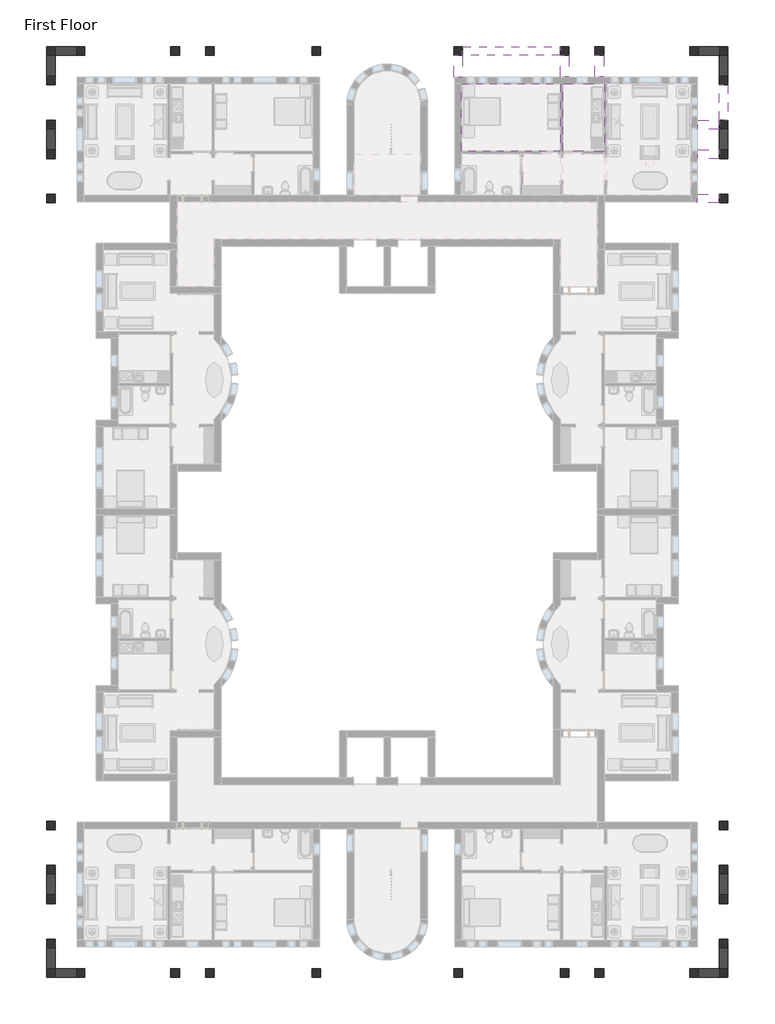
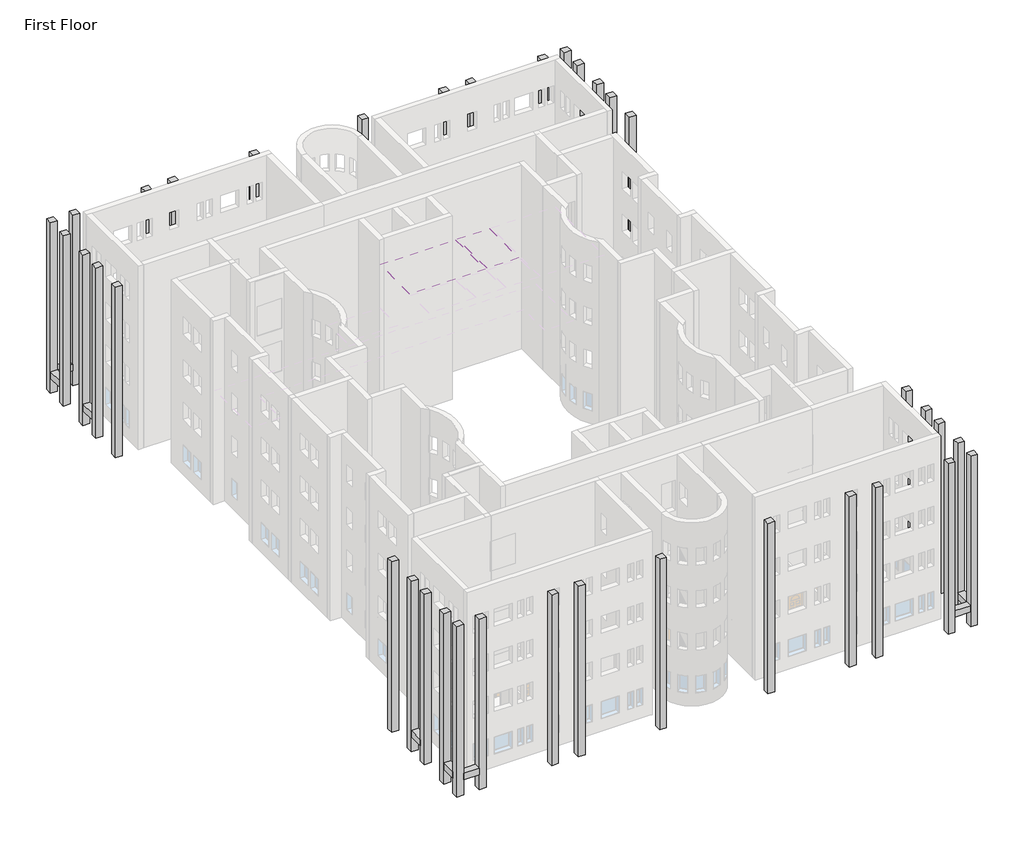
# One storey, part 17 of 21: 36 columns, 20 beams, 2 coverings.
"""IFC4 building model written with IfcOpenShell, lengths in millimetres."""

from ifc_helpers import new_model, si_unit, frame, origin, origin_with_axes, place, context, project, spatial, polyline, outline, extrude, faceted_brep, element, save

model = new_model("IFC4")

# Units and contexts
model_context = context("Model", 3, world=origin())
ifc_project = project(units=[si_unit("LENGTHUNIT", "METRE", prefix="MILLI")], contexts=[model_context])

# Site, building, storey
site = spatial("IfcSite", under=ifc_project)
building = spatial("IfcBuilding", under=site)
storey = spatial("IfcBuildingStorey", under=building, Name="First Floor", Elevation=0.0)

# Beams
placement = place(None, origin())
element("IfcBeam", 1, ObjectType="Concrete-Rectangular Beam : 18 x 18", at=placement, inside=storey, context=model_context, shape_type="SweptSolid", body=[
    extrude(outline(polyline([(2093.9410437, 12198.8316867), (2093.9410437, 11741.6316867), (1027.1410437, 11741.6316867), (1027.1410437, 12198.8316867), (2093.9410437, 12198.8316867)])), frame((0.0, 0.0, 2590.8), z_axis=(0.0, 0.0, 1.0), x_axis=(1.0, 0.0, 0.0)), (0.0, 0.0, 1.0), 457.2),
    extrude(outline(polyline([(569.9410437, 12198.8316867), (569.9410437, 11741.6316867), (-3862.3589563, 11741.6316867), (-3862.3589563, 12198.8316867), (569.9410437, 12198.8316867)])), frame((0.0, 0.0, 2590.8), z_axis=(0.0, 0.0, 1.0), x_axis=(1.0, 0.0, 0.0)), (0.0, 0.0, 1.0), 457.2),
    extrude(outline(polyline([(-5665.7589563, 11741.6316867), (-5665.7589563, 12198.8316867), (-4319.5589563, 12198.8316867), (-4319.5589563, 11741.6316867), (-5665.7589563, 11741.6316867)])), frame((0.0, 0.0, 2590.8), z_axis=(0.0, 0.0, 1.0), x_axis=(1.0, 0.0, 0.0)), (0.0, 0.0, 1.0), 457.2),
    extrude(outline(polyline([(-6122.9589563, 12198.8316867), (-6122.9589563, 11741.6316867), (-11164.8589563, 11741.6316867), (-11164.8589563, 12198.8316867), (-6122.9589563, 12198.8316867)])), frame((0.0, 0.0, 2590.8), z_axis=(0.0, 0.0, 1.0), x_axis=(1.0, 0.0, 0.0)), (0.0, 0.0, 1.0), 457.2),
])
element("IfcBeam", 2, ObjectType="Concrete-Rectangular Beam : 18 x 18", at=placement, inside=storey, context=model_context, shape_type="SweptSolid", body=[
    extrude(outline(polyline([(2093.9410437, 11741.6316867), (2551.1410437, 11741.6316867), (2551.1410437, 10674.8316867), (2093.9410437, 10674.8316867), (2093.9410437, 11741.6316867)])), frame((0.0, 0.0, 2590.8), z_axis=(0.0, 0.0, 1.0), x_axis=(1.0, 0.0, 0.0)), (0.0, 0.0, 1.0), 457.2),
    extrude(outline(polyline([(2551.1410437, 4578.8316867), (2093.9410437, 4578.8316867), (2093.9410437, 6407.6316867), (2551.1410437, 6407.6316867), (2551.1410437, 4578.8316867)])), frame((0.0, 0.0, 2590.8), z_axis=(0.0, 0.0, 1.0), x_axis=(1.0, 0.0, 0.0)), (0.0, 0.0, 1.0), 457.2),
    extrude(outline(polyline([(2551.1410437, 6864.8316867), (2093.9410437, 6864.8316867), (2093.9410437, 7931.6316867), (2551.1410437, 7931.6316867), (2551.1410437, 6864.8316867)])), frame((0.0, 0.0, 2590.8), z_axis=(0.0, 0.0, 1.0), x_axis=(1.0, 0.0, 0.0)), (0.0, 0.0, 1.0), 457.2),
    extrude(outline(polyline([(2093.9410437, 10217.6316867), (2551.1410437, 10217.6316867), (2551.1410437, 8388.8316867), (2093.9410437, 8388.8316867), (2093.9410437, 10217.6316867)])), frame((0.0, 0.0, 2590.8), z_axis=(0.0, 0.0, 1.0), x_axis=(1.0, 0.0, 0.0)), (0.0, 0.0, 1.0), 457.2),
])
element("IfcBeam", 3, ObjectType="Concrete-Rectangular Beam : 18 x 18", at=placement, inside=storey, context=model_context, shape_type="SweptSolid", body=[
    extrude(outline(polyline([(-11164.8589563, 10624.0316867), (-11622.0589563, 10624.0316867), (-11622.0589563, 11741.6316867), (-11164.8589563, 11741.6316867), (-11164.8589563, 10624.0316867)])), frame((0.0, 0.0, 2590.8), z_axis=(0.0, 0.0, 1.0), x_axis=(1.0, 0.0, 0.0)), (0.0, 0.0, 1.0), 457.2),
])
element("IfcBeam", 4, ObjectType="Concrete-Rectangular Beam : 18 x 18", at=placement, inside=storey, context=model_context, shape_type="SweptSolid", body=[
    extrude(outline(polyline([(-5665.7589563, 10643.0816867), (-6122.9589563, 10643.0816867), (-6122.9589563, 11741.6316867), (-5665.7589563, 11741.6316867), (-5665.7589563, 10643.0816867)])), frame((0.0, 0.0, 2590.8), z_axis=(0.0, 0.0, 1.0), x_axis=(1.0, 0.0, 0.0)), (0.0, 0.0, 1.0), 457.2),
])
element("IfcBeam", 5, ObjectType="Concrete-Rectangular Beam : 18 x 18", at=placement, inside=storey, context=model_context, shape_type="SweptSolid", body=[
    extrude(outline(polyline([(1001.7410437, 6407.6316867), (1001.7410437, 6864.8316867), (2093.9410437, 6864.8316867), (2093.9410437, 6407.6316867), (1001.7410437, 6407.6316867)])), frame((0.0, 0.0, 2590.8), z_axis=(0.0, 0.0, 1.0), x_axis=(1.0, 0.0, 0.0)), (0.0, 0.0, 1.0), 457.2),
])
element("IfcBeam", 6, ObjectType="Concrete-Rectangular Beam : 18 x 18", at=placement, inside=storey, context=model_context, shape_type="SweptSolid", body=[
    extrude(outline(polyline([(2093.9410437, 12198.8316867), (2093.9410437, 11741.6316867), (1027.1410437, 11741.6316867), (1027.1410437, 12198.8316867), (2093.9410437, 12198.8316867)])), frame((0.0, 0.0, 1066.8), z_axis=(0.0, 0.0, 1.0), x_axis=(1.0, 0.0, 0.0)), (0.0, 0.0, 1.0), 457.2),
])
element("IfcBeam", 7, ObjectType="Concrete-Rectangular Beam : 18 x 18", at=placement, inside=storey, context=model_context, shape_type="SweptSolid", body=[
    extrude(outline(polyline([(2551.1410437, 10674.8316867), (2093.9410437, 10674.8316867), (2093.9410437, 11741.6316867), (2551.1410437, 11741.6316867), (2551.1410437, 10674.8316867)])), frame((0.0, 0.0, 1066.8), z_axis=(0.0, 0.0, 1.0), x_axis=(1.0, 0.0, 0.0)), (0.0, 0.0, 1.0), 457.2),
])
element("IfcBeam", 8, ObjectType="Concrete-Rectangular Beam : 18 x 18", at=placement, inside=storey, context=model_context, shape_type="SweptSolid", body=[
    extrude(outline(polyline([(-3862.3589563, 10643.0816867), (-4319.5589563, 10643.0816867), (-4319.5589563, 11741.6316867), (-3862.3589563, 11741.6316867), (-3862.3589563, 10643.0816867)])), frame((0.0, 0.0, 2590.8), z_axis=(0.0, 0.0, 1.0), x_axis=(1.0, 0.0, 0.0)), (0.0, 0.0, 1.0), 457.2),
])
element("IfcBeam", 9, ObjectType="Concrete-Rectangular Beam : 18 x 18", at=placement, inside=storey, context=model_context, shape_type="SweptSolid", body=[
    extrude(outline(polyline([(1001.7410437, 7931.6316867), (1001.7410437, 8388.8316867), (2093.9410437, 8388.8316867), (2093.9410437, 7931.6316867), (1001.7410437, 7931.6316867)])), frame((0.0, 0.0, 2590.8), z_axis=(0.0, 0.0, 1.0), x_axis=(1.0, 0.0, 0.0)), (0.0, 0.0, 1.0), 457.2),
])
element("IfcBeam", 10, ObjectType="Concrete-Rectangular Beam : 18 x 18", at=placement, inside=storey, context=model_context, shape_type="SweptSolid", body=[
    extrude(outline(polyline([(976.3410437, 4121.6316867), (976.3410437, 4578.8316867), (2093.9410437, 4578.8316867), (2093.9410437, 4121.6316867), (976.3410437, 4121.6316867)])), frame((0.0, 0.0, 2590.8), z_axis=(0.0, 0.0, 1.0), x_axis=(1.0, 0.0, 0.0)), (0.0, 0.0, 1.0), 457.2),
])
element("IfcBeam", 11, ObjectType="Concrete-Rectangular Beam : 18 x 18", at=placement, inside=storey, context=model_context, shape_type="SweptSolid", body=[
    extrude(outline(polyline([(2551.1410437, 6864.8316867), (2093.9410437, 6864.8316867), (2093.9410437, 7931.6316867), (2551.1410437, 7931.6316867), (2551.1410437, 6864.8316867)])), frame((0.0, 0.0, 1066.8), z_axis=(0.0, 0.0, 1.0), x_axis=(1.0, 0.0, 0.0)), (0.0, 0.0, 1.0), 457.2),
])
element("IfcBeam", 12, ObjectType="Concrete-Rectangular Beam : 18 x 18", at=placement, inside=storey, context=model_context, shape_type="SweptSolid", body=[
    extrude(outline(polyline([(-32218.2839563, 12198.8316867), (-31151.4839563, 12198.8316867), (-31151.4839563, 11741.6316867), (-32218.2839563, 11741.6316867), (-32218.2839563, 12198.8316867)])), frame((0.0, 0.0, 1066.8), z_axis=(0.0, 0.0, 1.0), x_axis=(1.0, 0.0, 0.0)), (0.0, 0.0, 1.0), 457.2),
])
element("IfcBeam", 13, ObjectType="Concrete-Rectangular Beam : 18 x 18", at=placement, inside=storey, context=model_context, shape_type="SweptSolid", body=[
    extrude(outline(polyline([(-32675.4839563, 10674.8316867), (-32675.4839563, 11741.6316867), (-32218.2839563, 11741.6316867), (-32218.2839563, 10674.8316867), (-32675.4839563, 10674.8316867)])), frame((0.0, 0.0, 1066.8), z_axis=(0.0, 0.0, 1.0), x_axis=(1.0, 0.0, 0.0)), (0.0, 0.0, 1.0), 457.2),
])
element("IfcBeam", 14, ObjectType="Concrete-Rectangular Beam : 18 x 18", at=placement, inside=storey, context=model_context, shape_type="SweptSolid", body=[
    extrude(outline(polyline([(-32675.4839563, 6864.8316867), (-32675.4839563, 7931.6316867), (-32218.2839563, 7931.6316867), (-32218.2839563, 6864.8316867), (-32675.4839563, 6864.8316867)])), frame((0.0, 0.0, 1066.8), z_axis=(0.0, 0.0, 1.0), x_axis=(1.0, 0.0, 0.0)), (0.0, 0.0, 1.0), 457.2),
])
element("IfcBeam", 15, ObjectType="Concrete-Rectangular Beam : 18 x 18", at=placement, inside=storey, context=model_context, shape_type="SweptSolid", body=[
    extrude(outline(polyline([(2093.9410437, -35889.7183133), (1027.1410437, -35889.7183133), (1027.1410437, -35432.5183133), (2093.9410437, -35432.5183133), (2093.9410437, -35889.7183133)])), frame((0.0, 0.0, 1066.8), z_axis=(0.0, 0.0, 1.0), x_axis=(1.0, 0.0, 0.0)), (0.0, 0.0, 1.0), 457.2),
])
element("IfcBeam", 16, ObjectType="Concrete-Rectangular Beam : 18 x 18", at=placement, inside=storey, context=model_context, shape_type="SweptSolid", body=[
    extrude(outline(polyline([(2551.1410437, -34365.7183133), (2551.1410437, -35432.5183133), (2093.9410437, -35432.5183133), (2093.9410437, -34365.7183133), (2551.1410437, -34365.7183133)])), frame((0.0, 0.0, 1066.8), z_axis=(0.0, 0.0, 1.0), x_axis=(1.0, 0.0, 0.0)), (0.0, 0.0, 1.0), 457.2),
])
element("IfcBeam", 17, ObjectType="Concrete-Rectangular Beam : 18 x 18", at=placement, inside=storey, context=model_context, shape_type="SweptSolid", body=[
    extrude(outline(polyline([(2551.1410437, -30555.7183133), (2551.1410437, -31622.5183133), (2093.9410437, -31622.5183133), (2093.9410437, -30555.7183133), (2551.1410437, -30555.7183133)])), frame((0.0, 0.0, 1066.8), z_axis=(0.0, 0.0, 1.0), x_axis=(1.0, 0.0, 0.0)), (0.0, 0.0, 1.0), 457.2),
])
element("IfcBeam", 18, ObjectType="Concrete-Rectangular Beam : 18 x 18", at=placement, inside=storey, context=model_context, shape_type="SweptSolid", body=[
    extrude(outline(polyline([(-32218.2839563, -35889.7183133), (-32218.2839563, -35432.5183133), (-31151.4839563, -35432.5183133), (-31151.4839563, -35889.7183133), (-32218.2839563, -35889.7183133)])), frame((0.0, 0.0, 1066.8), z_axis=(0.0, 0.0, 1.0), x_axis=(1.0, 0.0, 0.0)), (0.0, 0.0, 1.0), 457.2),
])
element("IfcBeam", 19, ObjectType="Concrete-Rectangular Beam : 18 x 18", at=placement, inside=storey, context=model_context, shape_type="SweptSolid", body=[
    extrude(outline(polyline([(-32675.4839563, -34365.7183133), (-32218.2839563, -34365.7183133), (-32218.2839563, -35432.5183133), (-32675.4839563, -35432.5183133), (-32675.4839563, -34365.7183133)])), frame((0.0, 0.0, 1066.8), z_axis=(0.0, 0.0, 1.0), x_axis=(1.0, 0.0, 0.0)), (0.0, 0.0, 1.0), 457.2),
])
element("IfcBeam", 20, ObjectType="Concrete-Rectangular Beam : 18 x 18", at=placement, inside=storey, context=model_context, shape_type="SweptSolid", body=[
    extrude(outline(polyline([(-32675.4839563, -30555.7183133), (-32218.2839563, -30555.7183133), (-32218.2839563, -31622.5183133), (-32675.4839563, -31622.5183133), (-32675.4839563, -30555.7183133)])), frame((0.0, 0.0, 1066.8), z_axis=(0.0, 0.0, 1.0), x_axis=(1.0, 0.0, 0.0)), (0.0, 0.0, 1.0), 457.2),
])

# Columns
element("IfcColumn", 21, ObjectType="Concrete-Square-Column : 18 x 18", at=placement, inside=storey, context=model_context, shape_type="Brep", body=[
    faceted_brep([(1027.1410437, 12198.8316867, 0.0), (1027.1410437, 11741.6316867, 0.0), (569.9410437, 11741.6316867, 0.0), (569.9410437, 12198.8316867, 0.0), (1027.1410437, 12198.8316867, 12192.0), (1027.1410437, 11741.6316867, 12192.0), (1027.1410437, 11741.6316867, 11734.8), (1027.1410437, 11741.6316867, 9144.0), (1027.1410437, 11741.6316867, 8686.8), (1027.1410437, 11741.6316867, 6096.0), (1027.1410437, 11741.6316867, 5638.8), (1027.1410437, 11741.6316867, 3048.0), (1027.1410437, 11741.6316867, 2590.8), (1027.1410437, 12198.8316867, 2590.8), (1027.1410437, 12198.8316867, 3048.0), (1027.1410437, 12198.8316867, 5638.8), (1027.1410437, 12198.8316867, 6096.0), (1027.1410437, 12198.8316867, 8686.8), (1027.1410437, 12198.8316867, 9144.0), (1027.1410437, 12198.8316867, 11734.8), (569.9410437, 11741.6316867, 12192.0), (569.9410437, 11741.6316867, 11734.8), (569.9410437, 11741.6316867, 9144.0), (569.9410437, 11741.6316867, 8686.8), (569.9410437, 11741.6316867, 6096.0), (569.9410437, 11741.6316867, 5638.8), (569.9410437, 11741.6316867, 3048.0), (569.9410437, 11741.6316867, 2590.8), (569.9410437, 12198.8316867, 12192.0), (569.9410437, 12198.8316867, 11734.8), (569.9410437, 12198.8316867, 9144.0), (569.9410437, 12198.8316867, 8686.8), (569.9410437, 12198.8316867, 6096.0), (569.9410437, 12198.8316867, 5638.8), (569.9410437, 12198.8316867, 3048.0), (569.9410437, 12198.8316867, 2590.8)], [[[0, 1, 2, 3]], [[4, 5, 6, 7, 8, 9, 10, 11, 12, 1, 0, 13, 14, 15, 16, 17, 18, 19]], [[5, 20, 21, 22, 23, 24, 25, 26, 27, 2, 1, 12, 11, 10, 9, 8, 7, 6]], [[20, 28, 29, 30, 31, 32, 33, 34, 35, 3, 2, 27, 26, 25, 24, 23, 22, 21]], [[28, 4, 19, 18, 17, 16, 15, 14, 13, 0, 3, 35, 34, 33, 32, 31, 30, 29]], [[4, 28, 20, 5]]]),
])
element("IfcColumn", 22, ObjectType="Concrete-Square-Column : 18 x 18", at=placement, inside=storey, context=model_context, shape_type="SweptSolid", body=[
    extrude(outline(polyline([(2551.1410437, 12198.8316867), (2551.1410437, 11741.6316867), (2093.9410437, 11741.6316867), (2093.9410437, 12198.8316867), (2551.1410437, 12198.8316867)])), origin_with_axes(), (0.0, 0.0, 1.0), 12192.0),
])
element("IfcColumn", 23, ObjectType="Concrete-Square-Column : 18 x 18", at=placement, inside=storey, context=model_context, shape_type="Brep", body=[
    faceted_brep([(-5665.7589563, 12198.8316867, 0.0), (-5665.7589563, 11741.6316867, 0.0), (-6122.9589563, 11741.6316867, 0.0), (-6122.9589563, 12198.8316867, 0.0), (-5665.7589563, 12198.8316867, 12192.0), (-5665.7589563, 11741.6316867, 12192.0), (-5665.7589563, 11741.6316867, 11734.8), (-5665.7589563, 11741.6316867, 9144.0), (-5665.7589563, 11741.6316867, 8686.8), (-5665.7589563, 11741.6316867, 6096.0), (-5665.7589563, 11741.6316867, 5638.8), (-5665.7589563, 11741.6316867, 3048.0), (-5665.7589563, 11741.6316867, 2590.8), (-5665.7589563, 12198.8316867, 2590.8), (-5665.7589563, 12198.8316867, 3048.0), (-5665.7589563, 12198.8316867, 5638.8), (-5665.7589563, 12198.8316867, 6096.0), (-5665.7589563, 12198.8316867, 8686.8), (-5665.7589563, 12198.8316867, 9144.0), (-5665.7589563, 12198.8316867, 11734.8), (-6122.9589563, 11741.6316867, 12192.0), (-6122.9589563, 11741.6316867, 11734.8), (-6122.9589563, 11741.6316867, 9144.0), (-6122.9589563, 11741.6316867, 8686.8), (-6122.9589563, 11741.6316867, 6096.0), (-6122.9589563, 11741.6316867, 5638.8), (-6122.9589563, 11741.6316867, 3048.0), (-6122.9589563, 11741.6316867, 2590.8), (-6122.9589563, 12198.8316867, 12192.0), (-6122.9589563, 12198.8316867, 11734.8), (-6122.9589563, 12198.8316867, 9144.0), (-6122.9589563, 12198.8316867, 8686.8), (-6122.9589563, 12198.8316867, 6096.0), (-6122.9589563, 12198.8316867, 5638.8), (-6122.9589563, 12198.8316867, 3048.0), (-6122.9589563, 12198.8316867, 2590.8)], [[[0, 1, 2, 3]], [[4, 5, 6, 7, 8, 9, 10, 11, 12, 1, 0, 13, 14, 15, 16, 17, 18, 19]], [[5, 20, 21, 22, 23, 24, 25, 26, 27, 2, 1, 12, 11, 10, 9, 8, 7, 6]], [[20, 28, 29, 30, 31, 32, 33, 34, 35, 3, 2, 27, 26, 25, 24, 23, 22, 21]], [[28, 4, 19, 18, 17, 16, 15, 14, 13, 0, 3, 35, 34, 33, 32, 31, 30, 29]], [[4, 28, 20, 5]]]),
])
element("IfcColumn", 24, ObjectType="Concrete-Square-Column : 18 x 18", at=placement, inside=storey, context=model_context, shape_type="Brep", body=[
    faceted_brep([(2551.1410437, 6864.8316867, 0.0), (2551.1410437, 6407.6316867, 0.0), (2093.9410437, 6407.6316867, 0.0), (2093.9410437, 6864.8316867, 0.0), (2551.1410437, 6864.8316867, 12192.0), (2551.1410437, 6407.6316867, 12192.0), (2551.1410437, 6407.6316867, 11734.8), (2551.1410437, 6407.6316867, 9144.0), (2551.1410437, 6407.6316867, 8686.8), (2551.1410437, 6407.6316867, 6096.0), (2551.1410437, 6407.6316867, 5638.8), (2551.1410437, 6407.6316867, 3048.0), (2551.1410437, 6407.6316867, 2590.8), (2551.1410437, 6864.8316867, 2590.8), (2551.1410437, 6864.8316867, 3048.0), (2551.1410437, 6864.8316867, 5638.8), (2551.1410437, 6864.8316867, 6096.0), (2551.1410437, 6864.8316867, 8686.8), (2551.1410437, 6864.8316867, 9144.0), (2551.1410437, 6864.8316867, 11734.8), (2093.9410437, 6407.6316867, 12192.0), (2093.9410437, 6407.6316867, 11734.8), (2093.9410437, 6407.6316867, 9144.0), (2093.9410437, 6407.6316867, 8686.8), (2093.9410437, 6407.6316867, 6096.0), (2093.9410437, 6407.6316867, 5638.8), (2093.9410437, 6407.6316867, 3048.0), (2093.9410437, 6407.6316867, 2590.8), (2093.9410437, 6864.8316867, 12192.0), (2093.9410437, 6864.8316867, 11734.8), (2093.9410437, 6864.8316867, 9144.0), (2093.9410437, 6864.8316867, 8686.8), (2093.9410437, 6864.8316867, 6096.0), (2093.9410437, 6864.8316867, 5638.8), (2093.9410437, 6864.8316867, 3048.0), (2093.9410437, 6864.8316867, 2590.8)], [[[0, 1, 2, 3]], [[4, 5, 6, 7, 8, 9, 10, 11, 12, 1, 0, 13, 14, 15, 16, 17, 18, 19]], [[5, 20, 21, 22, 23, 24, 25, 26, 27, 2, 1, 12, 11, 10, 9, 8, 7, 6]], [[20, 28, 29, 30, 31, 32, 33, 34, 35, 3, 2, 27, 26, 25, 24, 23, 22, 21]], [[28, 4, 19, 18, 17, 16, 15, 14, 13, 0, 3, 35, 34, 33, 32, 31, 30, 29]], [[4, 28, 20, 5]]]),
])
element("IfcColumn", 25, ObjectType="Concrete-Square-Column : 18 x 18", at=placement, inside=storey, context=model_context, shape_type="SweptSolid", body=[
    extrude(outline(polyline([(2551.1410437, 4578.8316867), (2551.1410437, 4121.6316867), (2093.9410437, 4121.6316867), (2093.9410437, 4578.8316867), (2551.1410437, 4578.8316867)])), origin_with_axes(), (0.0, 0.0, 1.0), 12192.0),
])
element("IfcColumn", 26, ObjectType="Concrete-Square-Column : 18 x 18", at=placement, inside=storey, context=model_context, shape_type="Brep", body=[
    faceted_brep([(-11164.8589563, 12198.8316867, 0.0), (-11164.8589563, 11741.6316867, 0.0), (-11622.0589563, 11741.6316867, 0.0), (-11622.0589563, 12198.8316867, 0.0), (-11164.8589563, 12198.8316867, 12192.0), (-11164.8589563, 11741.6316867, 12192.0), (-11164.8589563, 11741.6316867, 11734.8), (-11164.8589563, 11741.6316867, 9144.0), (-11164.8589563, 11741.6316867, 8686.8), (-11164.8589563, 11741.6316867, 6096.0), (-11164.8589563, 11741.6316867, 5638.8), (-11164.8589563, 11741.6316867, 3048.0), (-11164.8589563, 11741.6316867, 2590.8), (-11164.8589563, 12198.8316867, 2590.8), (-11164.8589563, 12198.8316867, 3048.0), (-11164.8589563, 12198.8316867, 5638.8), (-11164.8589563, 12198.8316867, 6096.0), (-11164.8589563, 12198.8316867, 8686.8), (-11164.8589563, 12198.8316867, 9144.0), (-11164.8589563, 12198.8316867, 11734.8), (-11622.0589563, 11741.6316867, 12192.0), (-11622.0589563, 12198.8316867, 12192.0)], [[[0, 1, 2, 3]], [[4, 5, 6, 7, 8, 9, 10, 11, 12, 1, 0, 13, 14, 15, 16, 17, 18, 19]], [[5, 20, 2, 1, 12, 11, 10, 9, 8, 7, 6]], [[20, 21, 3, 2]], [[21, 4, 19, 18, 17, 16, 15, 14, 13, 0, 3]], [[4, 21, 20, 5]]]),
])
element("IfcColumn", 27, ObjectType="Concrete-Square-Column : 18 x 18", at=placement, inside=storey, context=model_context, shape_type="Brep", body=[
    faceted_brep([(2551.1410437, 10674.8316867, 0.0), (2551.1410437, 10217.6316867, 0.0), (2093.9410437, 10217.6316867, 0.0), (2093.9410437, 10674.8316867, 0.0), (2551.1410437, 10674.8316867, 12192.0), (2551.1410437, 10217.6316867, 12192.0), (2551.1410437, 10217.6316867, 11734.8), (2551.1410437, 10217.6316867, 9144.0), (2551.1410437, 10217.6316867, 8686.8), (2551.1410437, 10217.6316867, 6096.0), (2551.1410437, 10217.6316867, 5638.8), (2551.1410437, 10217.6316867, 3048.0), (2551.1410437, 10217.6316867, 2590.8), (2551.1410437, 10674.8316867, 2590.8), (2551.1410437, 10674.8316867, 3048.0), (2551.1410437, 10674.8316867, 5638.8), (2551.1410437, 10674.8316867, 6096.0), (2551.1410437, 10674.8316867, 8686.8), (2551.1410437, 10674.8316867, 9144.0), (2551.1410437, 10674.8316867, 11734.8), (2093.9410437, 10217.6316867, 12192.0), (2093.9410437, 10217.6316867, 11734.8), (2093.9410437, 10217.6316867, 9144.0), (2093.9410437, 10217.6316867, 8686.8), (2093.9410437, 10217.6316867, 6096.0), (2093.9410437, 10217.6316867, 5638.8), (2093.9410437, 10217.6316867, 3048.0), (2093.9410437, 10217.6316867, 2590.8), (2093.9410437, 10674.8316867, 12192.0), (2093.9410437, 10674.8316867, 11734.8), (2093.9410437, 10674.8316867, 9144.0), (2093.9410437, 10674.8316867, 8686.8), (2093.9410437, 10674.8316867, 6096.0), (2093.9410437, 10674.8316867, 5638.8), (2093.9410437, 10674.8316867, 3048.0), (2093.9410437, 10674.8316867, 2590.8)], [[[0, 1, 2, 3]], [[4, 5, 6, 7, 8, 9, 10, 11, 12, 1, 0, 13, 14, 15, 16, 17, 18, 19]], [[5, 20, 21, 22, 23, 24, 25, 26, 27, 2, 1, 12, 11, 10, 9, 8, 7, 6]], [[20, 28, 29, 30, 31, 32, 33, 34, 35, 3, 2, 27, 26, 25, 24, 23, 22, 21]], [[28, 4, 19, 18, 17, 16, 15, 14, 13, 0, 3, 35, 34, 33, 32, 31, 30, 29]], [[4, 28, 20, 5]]]),
])
element("IfcColumn", 28, ObjectType="Concrete-Square-Column : 18 x 18", at=placement, inside=storey, context=model_context, shape_type="Brep", body=[
    faceted_brep([(2551.1410437, 8388.8316867, 0.0), (2551.1410437, 7931.6316867, 0.0), (2093.9410437, 7931.6316867, 0.0), (2093.9410437, 8388.8316867, 0.0), (2551.1410437, 8388.8316867, 12192.0), (2551.1410437, 7931.6316867, 12192.0), (2551.1410437, 7931.6316867, 11734.8), (2551.1410437, 7931.6316867, 9144.0), (2551.1410437, 7931.6316867, 8686.8), (2551.1410437, 7931.6316867, 6096.0), (2551.1410437, 7931.6316867, 5638.8), (2551.1410437, 7931.6316867, 3048.0), (2551.1410437, 7931.6316867, 2590.8), (2551.1410437, 8388.8316867, 2590.8), (2551.1410437, 8388.8316867, 3048.0), (2551.1410437, 8388.8316867, 5638.8), (2551.1410437, 8388.8316867, 6096.0), (2551.1410437, 8388.8316867, 8686.8), (2551.1410437, 8388.8316867, 9144.0), (2551.1410437, 8388.8316867, 11734.8), (2093.9410437, 7931.6316867, 12192.0), (2093.9410437, 7931.6316867, 11734.8), (2093.9410437, 7931.6316867, 9144.0), (2093.9410437, 7931.6316867, 8686.8), (2093.9410437, 7931.6316867, 6096.0), (2093.9410437, 7931.6316867, 5638.8), (2093.9410437, 7931.6316867, 3048.0), (2093.9410437, 7931.6316867, 2590.8), (2093.9410437, 8388.8316867, 12192.0), (2093.9410437, 8388.8316867, 11734.8), (2093.9410437, 8388.8316867, 9144.0), (2093.9410437, 8388.8316867, 8686.8), (2093.9410437, 8388.8316867, 6096.0), (2093.9410437, 8388.8316867, 5638.8), (2093.9410437, 8388.8316867, 3048.0), (2093.9410437, 8388.8316867, 2590.8)], [[[0, 1, 2, 3]], [[4, 5, 6, 7, 8, 9, 10, 11, 12, 1, 0, 13, 14, 15, 16, 17, 18, 19]], [[5, 20, 21, 22, 23, 24, 25, 26, 27, 2, 1, 12, 11, 10, 9, 8, 7, 6]], [[20, 28, 29, 30, 31, 32, 33, 34, 35, 3, 2, 27, 26, 25, 24, 23, 22, 21]], [[28, 4, 19, 18, 17, 16, 15, 14, 13, 0, 3, 35, 34, 33, 32, 31, 30, 29]], [[4, 28, 20, 5]]]),
])
element("IfcColumn", 29, ObjectType="Concrete-Square-Column : 18 x 18", at=placement, inside=storey, context=model_context, shape_type="Brep", body=[
    faceted_brep([(-3862.3589563, 12198.8316867, 0.0), (-3862.3589563, 11741.6316867, 0.0), (-4319.5589563, 11741.6316867, 0.0), (-4319.5589563, 12198.8316867, 0.0), (-3862.3589563, 12198.8316867, 12192.0), (-3862.3589563, 11741.6316867, 12192.0), (-3862.3589563, 11741.6316867, 11734.8), (-3862.3589563, 11741.6316867, 9144.0), (-3862.3589563, 11741.6316867, 8686.8), (-3862.3589563, 11741.6316867, 6096.0), (-3862.3589563, 11741.6316867, 5638.8), (-3862.3589563, 11741.6316867, 3048.0), (-3862.3589563, 11741.6316867, 2590.8), (-3862.3589563, 12198.8316867, 2590.8), (-3862.3589563, 12198.8316867, 3048.0), (-3862.3589563, 12198.8316867, 5638.8), (-3862.3589563, 12198.8316867, 6096.0), (-3862.3589563, 12198.8316867, 8686.8), (-3862.3589563, 12198.8316867, 9144.0), (-3862.3589563, 12198.8316867, 11734.8), (-4319.5589563, 11741.6316867, 12192.0), (-4319.5589563, 11741.6316867, 11734.8), (-4319.5589563, 11741.6316867, 9144.0), (-4319.5589563, 11741.6316867, 8686.8), (-4319.5589563, 11741.6316867, 6096.0), (-4319.5589563, 11741.6316867, 5638.8), (-4319.5589563, 11741.6316867, 3048.0), (-4319.5589563, 11741.6316867, 2590.8), (-4319.5589563, 12198.8316867, 12192.0), (-4319.5589563, 12198.8316867, 11734.8), (-4319.5589563, 12198.8316867, 9144.0), (-4319.5589563, 12198.8316867, 8686.8), (-4319.5589563, 12198.8316867, 6096.0), (-4319.5589563, 12198.8316867, 5638.8), (-4319.5589563, 12198.8316867, 3048.0), (-4319.5589563, 12198.8316867, 2590.8)], [[[0, 1, 2, 3]], [[4, 5, 6, 7, 8, 9, 10, 11, 12, 1, 0, 13, 14, 15, 16, 17, 18, 19]], [[5, 20, 21, 22, 23, 24, 25, 26, 27, 2, 1, 12, 11, 10, 9, 8, 7, 6]], [[20, 28, 29, 30, 31, 32, 33, 34, 35, 3, 2, 27, 26, 25, 24, 23, 22, 21]], [[28, 4, 19, 18, 17, 16, 15, 14, 13, 0, 3, 35, 34, 33, 32, 31, 30, 29]], [[4, 28, 20, 5]]]),
])
element("IfcColumn", 30, ObjectType="Concrete-Square-Column : 18 x 18", at=placement, inside=storey, context=model_context, shape_type="SweptSolid", body=[
    extrude(outline(polyline([(-31151.4839563, 12198.8316867), (-30694.2839563, 12198.8316867), (-30694.2839563, 11741.6316867), (-31151.4839563, 11741.6316867), (-31151.4839563, 12198.8316867)])), origin_with_axes(), (0.0, 0.0, 1.0), 12192.0),
])
element("IfcColumn", 31, ObjectType="Concrete-Square-Column : 18 x 18", at=placement, inside=storey, context=model_context, shape_type="SweptSolid", body=[
    extrude(outline(polyline([(-32675.4839563, 12198.8316867), (-32218.2839563, 12198.8316867), (-32218.2839563, 11741.6316867), (-32675.4839563, 11741.6316867), (-32675.4839563, 12198.8316867)])), origin_with_axes(), (0.0, 0.0, 1.0), 12192.0),
])
element("IfcColumn", 32, ObjectType="Concrete-Square-Column : 18 x 18", at=placement, inside=storey, context=model_context, shape_type="SweptSolid", body=[
    extrude(outline(polyline([(-24458.5839563, 12198.8316867), (-24001.3839563, 12198.8316867), (-24001.3839563, 11741.6316867), (-24458.5839563, 11741.6316867), (-24458.5839563, 12198.8316867)])), origin_with_axes(), (0.0, 0.0, 1.0), 12192.0),
])
element("IfcColumn", 33, ObjectType="Concrete-Square-Column : 18 x 18", at=placement, inside=storey, context=model_context, shape_type="SweptSolid", body=[
    extrude(outline(polyline([(-32675.4839563, 6864.8316867), (-32218.2839563, 6864.8316867), (-32218.2839563, 6407.6316867), (-32675.4839563, 6407.6316867), (-32675.4839563, 6864.8316867)])), origin_with_axes(), (0.0, 0.0, 1.0), 12192.0),
])
element("IfcColumn", 34, ObjectType="Concrete-Square-Column : 18 x 18", at=placement, inside=storey, context=model_context, shape_type="SweptSolid", body=[
    extrude(outline(polyline([(-32675.4839563, 4578.8316867), (-32218.2839563, 4578.8316867), (-32218.2839563, 4121.6316867), (-32675.4839563, 4121.6316867), (-32675.4839563, 4578.8316867)])), origin_with_axes(), (0.0, 0.0, 1.0), 12192.0),
])
element("IfcColumn", 35, ObjectType="Concrete-Square-Column : 18 x 18", at=placement, inside=storey, context=model_context, shape_type="SweptSolid", body=[
    extrude(outline(polyline([(-18959.4839563, 12198.8316867), (-18502.2839563, 12198.8316867), (-18502.2839563, 11741.6316867), (-18959.4839563, 11741.6316867), (-18959.4839563, 12198.8316867)])), origin_with_axes(), (0.0, 0.0, 1.0), 12192.0),
])
element("IfcColumn", 36, ObjectType="Concrete-Square-Column : 18 x 18", at=placement, inside=storey, context=model_context, shape_type="SweptSolid", body=[
    extrude(outline(polyline([(-32675.4839563, 10674.8316867), (-32218.2839563, 10674.8316867), (-32218.2839563, 10217.6316867), (-32675.4839563, 10217.6316867), (-32675.4839563, 10674.8316867)])), origin_with_axes(), (0.0, 0.0, 1.0), 12192.0),
])
element("IfcColumn", 37, ObjectType="Concrete-Square-Column : 18 x 18", at=placement, inside=storey, context=model_context, shape_type="SweptSolid", body=[
    extrude(outline(polyline([(-32675.4839563, 8388.8316867), (-32218.2839563, 8388.8316867), (-32218.2839563, 7931.6316867), (-32675.4839563, 7931.6316867), (-32675.4839563, 8388.8316867)])), origin_with_axes(), (0.0, 0.0, 1.0), 12192.0),
])
element("IfcColumn", 38, ObjectType="Concrete-Square-Column : 18 x 18", at=placement, inside=storey, context=model_context, shape_type="SweptSolid", body=[
    extrude(outline(polyline([(-26261.9839563, 12198.8316867), (-25804.7839563, 12198.8316867), (-25804.7839563, 11741.6316867), (-26261.9839563, 11741.6316867), (-26261.9839563, 12198.8316867)])), origin_with_axes(), (0.0, 0.0, 1.0), 12192.0),
])
element("IfcColumn", 39, ObjectType="Concrete-Square-Column : 18 x 18", at=placement, inside=storey, context=model_context, shape_type="SweptSolid", body=[
    extrude(outline(polyline([(1027.1410437, -35889.7183133), (569.9410437, -35889.7183133), (569.9410437, -35432.5183133), (1027.1410437, -35432.5183133), (1027.1410437, -35889.7183133)])), origin_with_axes(), (0.0, 0.0, 1.0), 12192.0),
])
element("IfcColumn", 40, ObjectType="Concrete-Square-Column : 18 x 18", at=placement, inside=storey, context=model_context, shape_type="SweptSolid", body=[
    extrude(outline(polyline([(2551.1410437, -35889.7183133), (2093.9410437, -35889.7183133), (2093.9410437, -35432.5183133), (2551.1410437, -35432.5183133), (2551.1410437, -35889.7183133)])), origin_with_axes(), (0.0, 0.0, 1.0), 12192.0),
])
element("IfcColumn", 41, ObjectType="Concrete-Square-Column : 18 x 18", at=placement, inside=storey, context=model_context, shape_type="SweptSolid", body=[
    extrude(outline(polyline([(-5665.7589563, -35889.7183133), (-6122.9589563, -35889.7183133), (-6122.9589563, -35432.5183133), (-5665.7589563, -35432.5183133), (-5665.7589563, -35889.7183133)])), origin_with_axes(), (0.0, 0.0, 1.0), 12192.0),
])
element("IfcColumn", 42, ObjectType="Concrete-Square-Column : 18 x 18", at=placement, inside=storey, context=model_context, shape_type="SweptSolid", body=[
    extrude(outline(polyline([(2551.1410437, -30555.7183133), (2093.9410437, -30555.7183133), (2093.9410437, -30098.5183133), (2551.1410437, -30098.5183133), (2551.1410437, -30555.7183133)])), origin_with_axes(), (0.0, 0.0, 1.0), 12192.0),
])
element("IfcColumn", 43, ObjectType="Concrete-Square-Column : 18 x 18", at=placement, inside=storey, context=model_context, shape_type="SweptSolid", body=[
    extrude(outline(polyline([(2551.1410437, -28269.7183133), (2093.9410437, -28269.7183133), (2093.9410437, -27812.5183133), (2551.1410437, -27812.5183133), (2551.1410437, -28269.7183133)])), origin_with_axes(), (0.0, 0.0, 1.0), 12192.0),
])
element("IfcColumn", 44, ObjectType="Concrete-Square-Column : 18 x 18", at=placement, inside=storey, context=model_context, shape_type="SweptSolid", body=[
    extrude(outline(polyline([(-11164.8589563, -35889.7183133), (-11622.0589563, -35889.7183133), (-11622.0589563, -35432.5183133), (-11164.8589563, -35432.5183133), (-11164.8589563, -35889.7183133)])), origin_with_axes(), (0.0, 0.0, 1.0), 12192.0),
])
element("IfcColumn", 45, ObjectType="Concrete-Square-Column : 18 x 18", at=placement, inside=storey, context=model_context, shape_type="SweptSolid", body=[
    extrude(outline(polyline([(2551.1410437, -34365.7183133), (2093.9410437, -34365.7183133), (2093.9410437, -33908.5183133), (2551.1410437, -33908.5183133), (2551.1410437, -34365.7183133)])), origin_with_axes(), (0.0, 0.0, 1.0), 12192.0),
])
element("IfcColumn", 46, ObjectType="Concrete-Square-Column : 18 x 18", at=placement, inside=storey, context=model_context, shape_type="SweptSolid", body=[
    extrude(outline(polyline([(2551.1410437, -32079.7183133), (2093.9410437, -32079.7183133), (2093.9410437, -31622.5183133), (2551.1410437, -31622.5183133), (2551.1410437, -32079.7183133)])), origin_with_axes(), (0.0, 0.0, 1.0), 12192.0),
])
element("IfcColumn", 47, ObjectType="Concrete-Square-Column : 18 x 18", at=placement, inside=storey, context=model_context, shape_type="SweptSolid", body=[
    extrude(outline(polyline([(-3862.3589563, -35889.7183133), (-4319.5589563, -35889.7183133), (-4319.5589563, -35432.5183133), (-3862.3589563, -35432.5183133), (-3862.3589563, -35889.7183133)])), origin_with_axes(), (0.0, 0.0, 1.0), 12192.0),
])
element("IfcColumn", 48, ObjectType="Concrete-Square-Column : 18 x 18", at=placement, inside=storey, context=model_context, shape_type="SweptSolid", body=[
    extrude(outline(polyline([(-31151.4839563, -35889.7183133), (-31151.4839563, -35432.5183133), (-30694.2839563, -35432.5183133), (-30694.2839563, -35889.7183133), (-31151.4839563, -35889.7183133)])), origin_with_axes(), (0.0, 0.0, 1.0), 12192.0),
])
element("IfcColumn", 49, ObjectType="Concrete-Square-Column : 18 x 18", at=placement, inside=storey, context=model_context, shape_type="SweptSolid", body=[
    extrude(outline(polyline([(-32675.4839563, -35889.7183133), (-32675.4839563, -35432.5183133), (-32218.2839563, -35432.5183133), (-32218.2839563, -35889.7183133), (-32675.4839563, -35889.7183133)])), origin_with_axes(), (0.0, 0.0, 1.0), 12192.0),
])
element("IfcColumn", 50, ObjectType="Concrete-Square-Column : 18 x 18", at=placement, inside=storey, context=model_context, shape_type="SweptSolid", body=[
    extrude(outline(polyline([(-24458.5839563, -35889.7183133), (-24458.5839563, -35432.5183133), (-24001.3839563, -35432.5183133), (-24001.3839563, -35889.7183133), (-24458.5839563, -35889.7183133)])), origin_with_axes(), (0.0, 0.0, 1.0), 12192.0),
])
element("IfcColumn", 51, ObjectType="Concrete-Square-Column : 18 x 18", at=placement, inside=storey, context=model_context, shape_type="SweptSolid", body=[
    extrude(outline(polyline([(-32675.4839563, -30555.7183133), (-32675.4839563, -30098.5183133), (-32218.2839563, -30098.5183133), (-32218.2839563, -30555.7183133), (-32675.4839563, -30555.7183133)])), origin_with_axes(), (0.0, 0.0, 1.0), 12192.0),
])
element("IfcColumn", 52, ObjectType="Concrete-Square-Column : 18 x 18", at=placement, inside=storey, context=model_context, shape_type="SweptSolid", body=[
    extrude(outline(polyline([(-32675.4839563, -28269.7183133), (-32675.4839563, -27812.5183133), (-32218.2839563, -27812.5183133), (-32218.2839563, -28269.7183133), (-32675.4839563, -28269.7183133)])), origin_with_axes(), (0.0, 0.0, 1.0), 12192.0),
])
element("IfcColumn", 53, ObjectType="Concrete-Square-Column : 18 x 18", at=placement, inside=storey, context=model_context, shape_type="SweptSolid", body=[
    extrude(outline(polyline([(-18959.4839563, -35889.7183133), (-18959.4839563, -35432.5183133), (-18502.2839563, -35432.5183133), (-18502.2839563, -35889.7183133), (-18959.4839563, -35889.7183133)])), origin_with_axes(), (0.0, 0.0, 1.0), 12192.0),
])
element("IfcColumn", 54, ObjectType="Concrete-Square-Column : 18 x 18", at=placement, inside=storey, context=model_context, shape_type="SweptSolid", body=[
    extrude(outline(polyline([(-32675.4839563, -34365.7183133), (-32675.4839563, -33908.5183133), (-32218.2839563, -33908.5183133), (-32218.2839563, -34365.7183133), (-32675.4839563, -34365.7183133)])), origin_with_axes(), (0.0, 0.0, 1.0), 12192.0),
])
element("IfcColumn", 55, ObjectType="Concrete-Square-Column : 18 x 18", at=placement, inside=storey, context=model_context, shape_type="SweptSolid", body=[
    extrude(outline(polyline([(-32675.4839563, -32079.7183133), (-32675.4839563, -31622.5183133), (-32218.2839563, -31622.5183133), (-32218.2839563, -32079.7183133), (-32675.4839563, -32079.7183133)])), origin_with_axes(), (0.0, 0.0, 1.0), 12192.0),
])
element("IfcColumn", 56, ObjectType="Concrete-Square-Column : 18 x 18", at=placement, inside=storey, context=model_context, shape_type="SweptSolid", body=[
    extrude(outline(polyline([(-26261.9839563, -35889.7183133), (-26261.9839563, -35432.5183133), (-25804.7839563, -35432.5183133), (-25804.7839563, -35889.7183133), (-26261.9839563, -35889.7183133)])), origin_with_axes(), (0.0, 0.0, 1.0), 12192.0),
])

# Coverings
element("IfcCovering", 57, ObjectType="GWB on Mtl. Stud", at=placement, inside=storey, context=model_context, shape_type="SweptSolid", body=[
    extrude(outline(polyline([(-11217.2464563, 10270.0191867), (-6122.9589563, 10270.0191867), (-6122.9589563, 6787.0441867), (-11217.2464563, 6787.0441867), (-11217.2464563, 10270.0191867)])), frame((0.0, 0.0, 2590.8), z_axis=(0.0, 0.0, 1.0), x_axis=(1.0, 0.0, 0.0)), (0.0, 0.0, 1.0), 107.95),
])
element("IfcCovering", 58, ObjectType="GWB on Mtl. Stud", at=placement, inside=storey, context=model_context, shape_type="SweptSolid", body=[
    extrude(outline(polyline([(-5995.9589563, 6787.0441867), (-5995.9589563, 10270.0191867), (-3836.9589563, 10270.0191867), (-3836.9589563, 6787.0441867), (-5995.9589563, 6787.0441867)])), frame((0.0, 0.0, 2590.8), z_axis=(0.0, 0.0, 1.0), x_axis=(1.0, 0.0, 0.0)), (0.0, 0.0, 1.0), 107.95),
])

save(model, "model.ifc")
